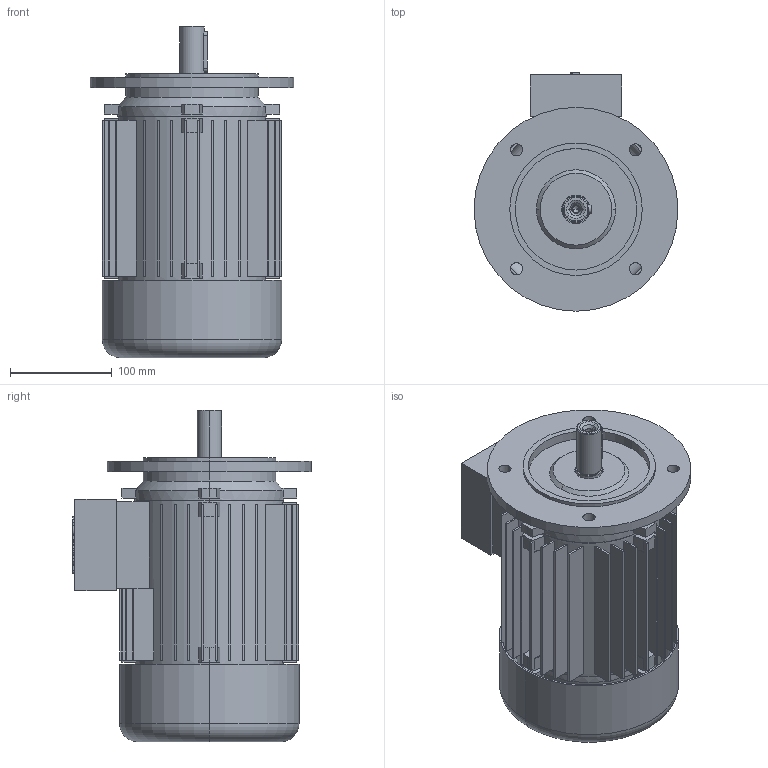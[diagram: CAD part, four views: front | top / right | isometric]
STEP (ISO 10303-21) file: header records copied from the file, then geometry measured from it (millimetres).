
FILE_DESCRIPTION (( 'STEP AP203' ), '1' );
FILE_NAME ('5AZ 90L B5 STANDK.STEP', '2017-11-10T11:22:57', ( '' ), ( '' ), 'SwSTEP 2.0', 'SolidWorks 2017', '' );
FILE_SCHEMA (( 'CONFIG_CONTROL_DESIGN' ));
Length unit declared in the file: millimetre
Products named in the file (1): 5AZ 90L B5 STANDK
Bounding box: 200 x 234 x 325 mm (x, y, z)
Volume: 1922792.2 mm3; surface area: 651527.6 mm2
Topology: 7 solids, 7 shells, 457 faces, 1167 edges, 769 vertices
Faces by surface type: plane 299, cylinder 123, cone 22, bspline 9, torus 4
Entity records: 14059 total; most frequent: CARTESIAN_POINT 2625, DIRECTION 2413, ORIENTED_EDGE 2330, EDGE_CURVE 1165, AXIS2_PLACEMENT_3D 837, VERTEX_POINT 769, VECTOR 739, LINE 739
